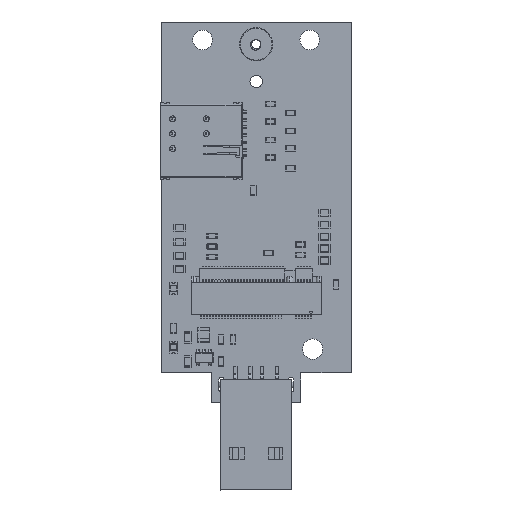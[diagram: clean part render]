
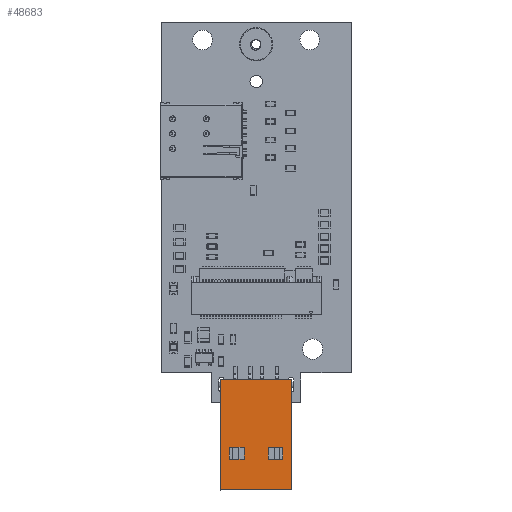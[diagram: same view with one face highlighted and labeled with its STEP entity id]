
A CAD part, top view. The second image highlights one B-rep face of the part: STEP entity #48683.
In plain terms, the highlighted planar face has unit normal (0, 0, 1).
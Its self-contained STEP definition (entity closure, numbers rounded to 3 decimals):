
#47802 = VERTEX_POINT('',#47803);
#47803 = CARTESIAN_POINT('',(10.,-14.7,3.2));
#47809 = EDGE_CURVE('',#47802,#47810,#47812,.T.);
#47810 = VERTEX_POINT('',#47811);
#47811 = CARTESIAN_POINT('',(22.,-14.7,3.2)
  );
#47812 = LINE('',#47813,#47814);
#47813 = CARTESIAN_POINT('',(10.,-14.7,3.2));
#47814 = VECTOR('',#47815,1.);
#47815 = DIRECTION('',(1.,0.,0.));
#47901 = VERTEX_POINT('',#47902);
#47902 = CARTESIAN_POINT('',(10.,3.95,
    3.2));
#47908 = EDGE_CURVE('',#47901,#47802,#47909,.T.);
#47909 = LINE('',#47910,#47911);
#47910 = CARTESIAN_POINT('',(10.,3.95,
    3.2));
#47911 = VECTOR('',#47912,1.);
#47912 = DIRECTION('',(0.,-1.,0.));
#48109 = VERTEX_POINT('',#48110);
#48110 = CARTESIAN_POINT('',(22.,3.95,
    3.2));
#48116 = EDGE_CURVE('',#47901,#48109,#48117,.T.);
#48117 = LINE('',#48118,#48119);
#48118 = CARTESIAN_POINT('',(10.,3.95,
    3.2));
#48119 = VECTOR('',#48120,1.);
#48120 = DIRECTION('',(1.,0.,0.));
#48324 = EDGE_CURVE('',#48109,#47810,#48325,.T.);
#48325 = LINE('',#48326,#48327);
#48326 = CARTESIAN_POINT('',(22.,3.95,
    3.2));
#48327 = VECTOR('',#48328,1.);
#48328 = DIRECTION('',(0.,-1.,0.));
#48683 = ADVANCED_FACE('',(#48684,#48690,#48724),#48758,.T.);
#48684 = FACE_BOUND('',#48685,.F.);
#48685 = EDGE_LOOP('',(#48686,#48687,#48688,#48689));
#48686 = ORIENTED_EDGE('',*,*,#47809,.F.);
#48687 = ORIENTED_EDGE('',*,*,#47908,.F.);
#48688 = ORIENTED_EDGE('',*,*,#48116,.T.);
#48689 = ORIENTED_EDGE('',*,*,#48324,.T.);
#48690 = FACE_BOUND('',#48691,.F.);
#48691 = EDGE_LOOP('',(#48692,#48702,#48710,#48718));
#48692 = ORIENTED_EDGE('',*,*,#48693,.T.);
#48693 = EDGE_CURVE('',#48694,#48696,#48698,.T.);
#48694 = VERTEX_POINT('',#48695);
#48695 = CARTESIAN_POINT('',(20.5,-7.54,
    3.2));
#48696 = VERTEX_POINT('',#48697);
#48697 = CARTESIAN_POINT('',(18.,-7.54,
    3.2));
#48698 = LINE('',#48699,#48700);
#48699 = CARTESIAN_POINT('',(20.5,-7.54,
    3.2));
#48700 = VECTOR('',#48701,1.);
#48701 = DIRECTION('',(-1.,0.,0.));
#48702 = ORIENTED_EDGE('',*,*,#48703,.T.);
#48703 = EDGE_CURVE('',#48696,#48704,#48706,.T.);
#48704 = VERTEX_POINT('',#48705);
#48705 = CARTESIAN_POINT('',(18.,-9.54,
    3.2));
#48706 = LINE('',#48707,#48708);
#48707 = CARTESIAN_POINT('',(18.,-7.54,
    3.2));
#48708 = VECTOR('',#48709,1.);
#48709 = DIRECTION('',(0.,-1.,0.));
#48710 = ORIENTED_EDGE('',*,*,#48711,.T.);
#48711 = EDGE_CURVE('',#48704,#48712,#48714,.T.);
#48712 = VERTEX_POINT('',#48713);
#48713 = CARTESIAN_POINT('',(20.5,-9.54,
    3.2));
#48714 = LINE('',#48715,#48716);
#48715 = CARTESIAN_POINT('',(18.,-9.54,
    3.2));
#48716 = VECTOR('',#48717,1.);
#48717 = DIRECTION('',(1.,0.,0.));
#48718 = ORIENTED_EDGE('',*,*,#48719,.T.);
#48719 = EDGE_CURVE('',#48712,#48694,#48720,.T.);
#48720 = LINE('',#48721,#48722);
#48721 = CARTESIAN_POINT('',(20.5,-9.54,
    3.2));
#48722 = VECTOR('',#48723,1.);
#48723 = DIRECTION('',(0.,1.,0.));
#48724 = FACE_BOUND('',#48725,.F.);
#48725 = EDGE_LOOP('',(#48726,#48736,#48744,#48752));
#48726 = ORIENTED_EDGE('',*,*,#48727,.T.);
#48727 = EDGE_CURVE('',#48728,#48730,#48732,.T.);
#48728 = VERTEX_POINT('',#48729);
#48729 = CARTESIAN_POINT('',(11.5,-7.54,
    3.2));
#48730 = VERTEX_POINT('',#48731);
#48731 = CARTESIAN_POINT('',(11.5,-9.54,
    3.2));
#48732 = LINE('',#48733,#48734);
#48733 = CARTESIAN_POINT('',(11.5,-7.54,
    3.2));
#48734 = VECTOR('',#48735,1.);
#48735 = DIRECTION('',(0.,-1.,0.));
#48736 = ORIENTED_EDGE('',*,*,#48737,.T.);
#48737 = EDGE_CURVE('',#48730,#48738,#48740,.T.);
#48738 = VERTEX_POINT('',#48739);
#48739 = CARTESIAN_POINT('',(14.,-9.54,
    3.2));
#48740 = LINE('',#48741,#48742);
#48741 = CARTESIAN_POINT('',(11.5,-9.54,
    3.2));
#48742 = VECTOR('',#48743,1.);
#48743 = DIRECTION('',(1.,0.,0.));
#48744 = ORIENTED_EDGE('',*,*,#48745,.T.);
#48745 = EDGE_CURVE('',#48738,#48746,#48748,.T.);
#48746 = VERTEX_POINT('',#48747);
#48747 = CARTESIAN_POINT('',(14.,-7.54,
    3.2));
#48748 = LINE('',#48749,#48750);
#48749 = CARTESIAN_POINT('',(14.,-9.54,
    3.2));
#48750 = VECTOR('',#48751,1.);
#48751 = DIRECTION('',(0.,1.,0.));
#48752 = ORIENTED_EDGE('',*,*,#48753,.T.);
#48753 = EDGE_CURVE('',#48746,#48728,#48754,.T.);
#48754 = LINE('',#48755,#48756);
#48755 = CARTESIAN_POINT('',(14.,-7.54,
    3.2));
#48756 = VECTOR('',#48757,1.);
#48757 = DIRECTION('',(-1.,0.,0.));
#48758 = PLANE('',#48759);
#48759 = AXIS2_PLACEMENT_3D('',#48760,#48761,#48762);
#48760 = CARTESIAN_POINT('',(22.,-14.7,3.2)
  );
#48761 = DIRECTION('',(0.,0.,1.));
#48762 = DIRECTION('',(-1.,0.,0.));
